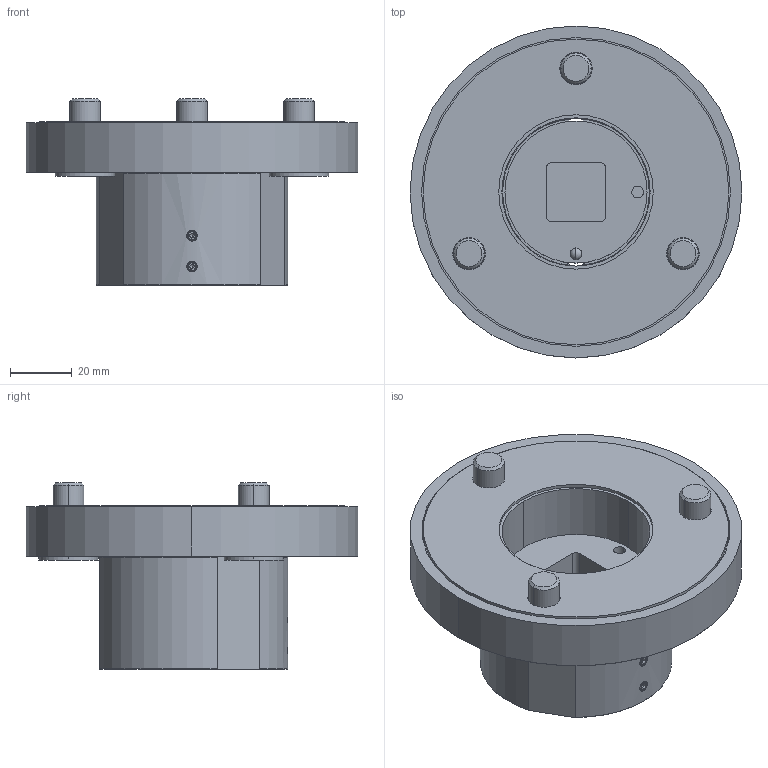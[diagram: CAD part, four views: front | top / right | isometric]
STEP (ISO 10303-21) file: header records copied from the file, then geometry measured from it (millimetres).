
FILE_DESCRIPTION (( 'STEP AP203' ), '1' );
FILE_NAME ('8800294_s.STEP', '2024-06-07T20:36:12', ( '' ), ( '' ), 'SwSTEP 2.0', 'SolidWorks 2022', '' );
FILE_SCHEMA (( 'CONFIG_CONTROL_DESIGN' ));
Length unit declared in the file: millimetre
Products named in the file (1): 8800294_s
Bounding box: 107.5 x 107.5 x 60.3 mm (x, y, z)
Volume: 206990.9 mm3; surface area: 59786 mm2
Topology: 12 solids, 12 shells, 302 faces, 734 edges, 445 vertices
Faces by surface type: plane 136, cylinder 75, cone 64, bspline 19, torus 6, sphere 2
Entity records: 10076 total; most frequent: CARTESIAN_POINT 3021, DIRECTION 1483, ORIENTED_EDGE 1410, EDGE_CURVE 705, AXIS2_PLACEMENT_3D 554, VERTEX_POINT 438, VECTOR 375, LINE 375
